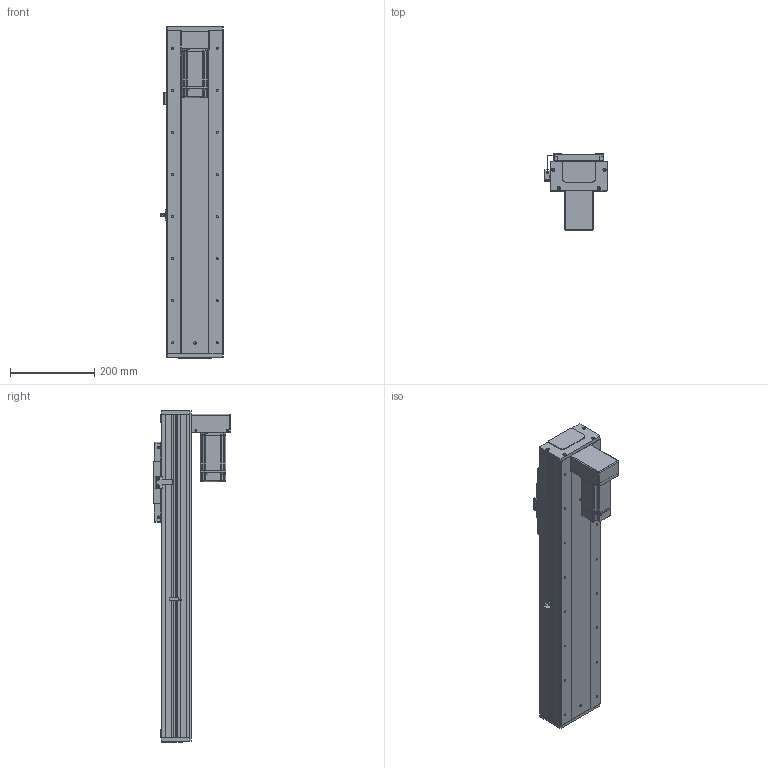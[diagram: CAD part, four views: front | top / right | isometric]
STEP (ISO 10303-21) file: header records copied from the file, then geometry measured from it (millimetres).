
FILE_DESCRIPTION (( 'STEP AP203' ), '1' );
FILE_NAME ('RY140F-L2020-300-BK.SLDASM_500.step', '2021-03-02T08:26:42', ( '盈信电脑' ), ( '东莞市道滘镇水果街19号' ), 'SwSTEP 2.0', 'SolidWorks 2012', '' );
FILE_SCHEMA (( 'CONFIG_CONTROL_DESIGN' ));
Length unit declared in the file: millimetre
Products named in the file (21): RY140F-直连型材铝滑块(16丝杆); RY140F-L2020-300-BK.SLDASM_500; RY140F-狟殏萇儂欶(400W); 滅袉蝶18-10; RY140F-詩湍嘐隅輸; RY140F-狟殏萇儂啣(400W M5); 侐源滅袉蝶; RY140F-672覜茼んえ; RY140F-詩湍揤え; 覜茼ん672; RY100F-詩湍揤踡謫; RY140F-后盖板(铝件）; 15; 侂狟400W侜督萇儂; RY140F-詩湍幗謫粣; 藻笠沭; RY140F-滅鳥奻裔; RY140F-300-BK蛌殏詩湍_500; RY140F-300-BK倰第菁釱_500; RY140F-300-BK倰第奻裔啣_500; RY140F-直连型材铝滑块连接座
Assembly tree (26 placements, depth 3):
  RY140F-L2020-300-BK.SLDASM_500
    RY140F-300-BK倰第菁釱_500
    RY140F-300-BK倰第奻裔啣_500  x2
    RY140F-300-BK蛌殏詩湍_500
    RY140F-直连型材铝滑块连接座
    RY140F-滅鳥奻裔
    RY140F-詩湍幗謫粣
    藻笠沭  x2
    RY100F-詩湍揤踡謫
    RY140F-后盖板(铝件）  x2
    侂狟400W侜督萇儂
      15
    覜茼ん672
    RY140F-672覜茼んえ
    RY140F-詩湍揤え  x2
    侐源滅袉蝶  x2
    RY140F-狟殏萇儂啣(400W M5)
    RY140F-狟殏萇儂欶(400W)
    RY140F-詩湍嘐隅輸
    滅袉蝶18-10  x2
    RY140F-直连型材铝滑块(16丝杆)
Bounding box: 148.7 x 184.5 x 789 mm (x, y, z)
Volume: 3334384.5 mm3; surface area: 1176993.5 mm2
Topology: 25 solids, 25 shells, 1988 faces, 5444 edges, 3480 vertices
Faces by surface type: cylinder 959, plane 811, cone 192, bspline 22, torus 4
Entity records: 62692 total; most frequent: CARTESIAN_POINT 13223, DIRECTION 9967, ORIENTED_EDGE 9732, EDGE_CURVE 4866, AXIS2_PLACEMENT_3D 3552, VERTEX_POINT 3184, VECTOR 2863, LINE 2863
